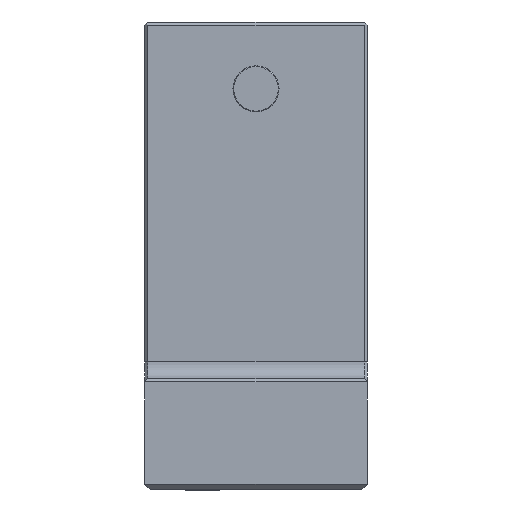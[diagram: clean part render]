
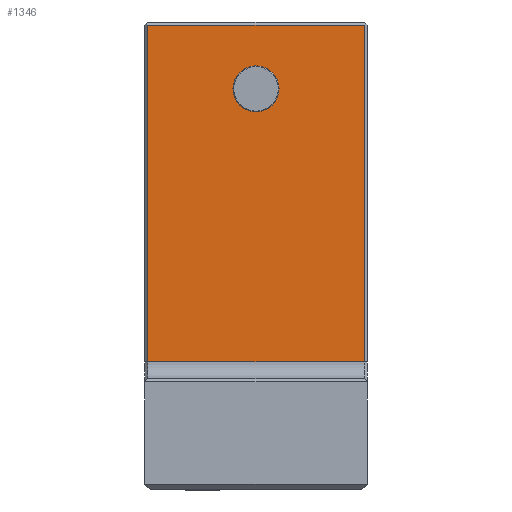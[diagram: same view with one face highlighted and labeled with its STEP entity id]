
A CAD part, front view. The second image highlights one B-rep face of the part: STEP entity #1346.
In plain terms, the highlighted planar face has unit normal (0, -1, 0).
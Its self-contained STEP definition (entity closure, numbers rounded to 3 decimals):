
#1150=CARTESIAN_POINT('',(0.3,-15.0,-10.5));
#1151=VERTEX_POINT('',#1150);
#1177=CARTESIAN_POINT('',(19.7,-15.0,-10.5));
#1178=VERTEX_POINT('',#1177);
#1218=CARTESIAN_POINT('',(0.3,-15.0,19.7));
#1219=VERTEX_POINT('',#1218);
#1220=CARTESIAN_POINT('',(0.3,-15.0,-10.5));
#1221=DIRECTION('',(0.0,0.0,1.0));
#1222=VECTOR('',#1221,30.2);
#1223=LINE('',#1220,#1222);
#1224=EDGE_CURVE('',#1151,#1219,#1223,.T.);
#1242=CARTESIAN_POINT('',(19.7,-15.0,19.7));
#1243=VERTEX_POINT('',#1242);
#1250=CARTESIAN_POINT('',(19.7,-15.0,19.7));
#1251=DIRECTION('',(0.0,0.0,-1.0));
#1252=VECTOR('',#1251,30.2);
#1253=LINE('',#1250,#1252);
#1254=EDGE_CURVE('',#1243,#1178,#1253,.T.);
#1310=CARTESIAN_POINT('',(19.7,-15.0,-10.5));
#1311=DIRECTION('',(-1.0,0.0,0.0));
#1312=VECTOR('',#1311,19.4);
#1313=LINE('',#1310,#1312);
#1314=EDGE_CURVE('',#1178,#1151,#1313,.T.);
#1319=CARTESIAN_POINT('',(0.0,-15.0,-12.));
#1320=DIRECTION('',(0.0,-1.0,0.0));
#1321=DIRECTION('',(0.0,0.0,-1.0));
#1322=AXIS2_PLACEMENT_3D('',#1319,#1320,#1321);
#1323=PLANE('',#1322);
#1324=ORIENTED_EDGE('',*,*,#1224,.F.);
#1325=ORIENTED_EDGE('',*,*,#1314,.F.);
#1326=ORIENTED_EDGE('',*,*,#1254,.F.);
#1327=CARTESIAN_POINT('',(0.3,-15.0,19.7));
#1328=DIRECTION('',(1.0,0.0,0.0));
#1329=VECTOR('',#1328,19.4);
#1330=LINE('',#1327,#1329);
#1331=EDGE_CURVE('',#1219,#1243,#1330,.T.);
#1332=ORIENTED_EDGE('',*,*,#1331,.F.);
#1333=EDGE_LOOP('',(#1324,#1325,#1326,#1332));
#1334=FACE_OUTER_BOUND('',#1333,.T.);
#1335=CARTESIAN_POINT('',(12.067,-15.,14.));
#1336=VERTEX_POINT('',#1335);
#1337=CARTESIAN_POINT('',(10.0,-15.,14.));
#1338=DIRECTION('',(0.0,1.0,0.0));
#1339=DIRECTION('',(-1.0,0.0,0.0));
#1340=AXIS2_PLACEMENT_3D('',#1337,#1338,#1339);
#1341=CIRCLE('',#1340,2.067);
#1342=EDGE_CURVE('',#1336,#1336,#1341,.T.);
#1343=ORIENTED_EDGE('',*,*,#1342,.T.);
#1344=EDGE_LOOP('',(#1343));
#1345=FACE_BOUND('',#1344,.T.);
#1346=ADVANCED_FACE('',(#1334,#1345),#1323,.T.);
